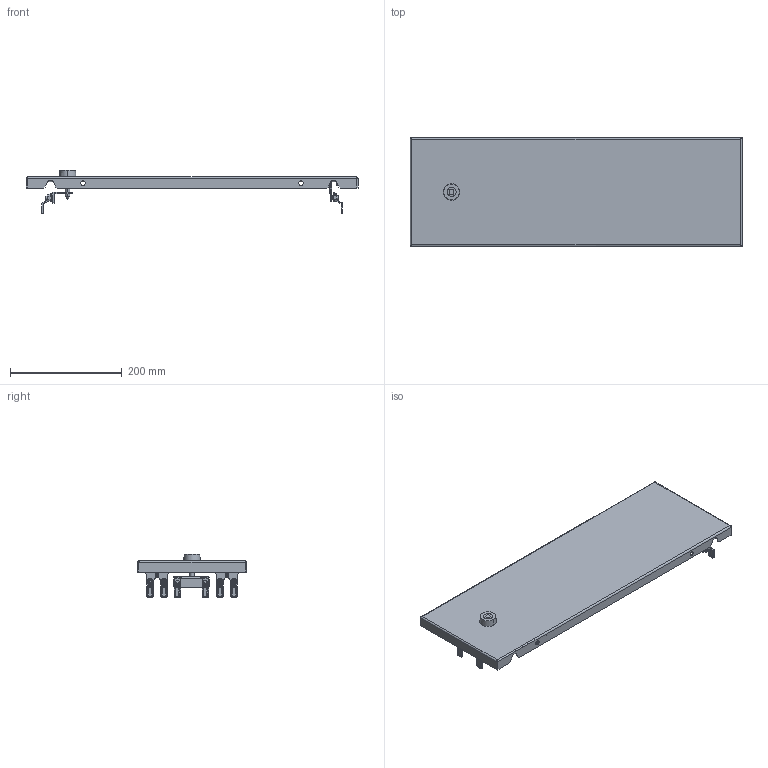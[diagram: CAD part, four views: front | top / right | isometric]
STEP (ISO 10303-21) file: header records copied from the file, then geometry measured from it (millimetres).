
FILE_DESCRIPTION(('CAx-IF Rec.Pracs.---Model Styling and Organization---1.2---2011-12-15','CAx-IF Rec.Pracs.---Geometric and Assembly Validation Properties---4.1---2014-06-16','CAx-IF Rec.Pracs.---PMI Polyline Presentation---2.0---2013-05-24'),'2;1');
FILE_NAME('R5CPMEM6200.stp','2021-05-06T03:52:10+03:00',(''),(''),'STEP Interface 4.4 by CT CoreTechnologie','3D_Evolution4.4 by CT CoreTechnologie','');
FILE_SCHEMA(('AUTOMOTIVE_DESIGN { 1 0 10303 214 1 1 1 1 }'));
Length unit declared in the file: millimetre
Products named in the file (16): R5CPMEM6200; AC00C745; RB.0687.00.00.1; M6 x 16-DIN 7991 ISR_thread; AC00C485; M6 x 16-DIN 7991 ISR_stright; MS737-1-1; MS737-1-1 Z_ ªàëâ; MS737-1-1 stop_fixed; RB.0572.00.00.1 ÑÁ_-05; Ì6õ12-A5100231_straight; AC00C266; RB.0572.00.01.1_-05; AC00C061_AC00C061; PF 7x14 R5PKEB_0200x0600; RB.0116.00.00.2_-00
Assembly tree (27 placements, depth 3):
  R5CPMEM6200
    AC00C745  x2
    RB.0687.00.00.1
    M6 x 16-DIN 7991 ISR_thread  x3
    AC00C485  x6
    M6 x 16-DIN 7991 ISR_stright  x3
    MS737-1-1
      MS737-1-1 Z_ ªàëâ
      MS737-1-1 stop_fixed
    RB.0572.00.00.1 ÑÁ_-05
      Ì6õ12-A5100231_straight
      AC00C266  x2
      RB.0572.00.01.1_-05
      AC00C061_AC00C061
      PF 7x14 R5PKEB_0200x0600
    RB.0116.00.00.2_-00  x2
Bounding box: 594 x 195 x 77.95 mm (x, y, z)
Surface area: 380531.9 mm2 (no closed solid volume)
Topology: 0 solids, 37 shells, 1202 faces, 2971 edges, 1829 vertices
Faces by surface type: plane 489, cylinder 463, bspline 250
Entity records: 20974 total; most frequent: CARTESIAN_POINT 6656, ORIENTED_EDGE 2824, DIRECTION 2786, EDGE_CURVE 1412, AXIS2_PLACEMENT_3D 971, VERTEX_POINT 895, VECTOR 844, LINE 844
